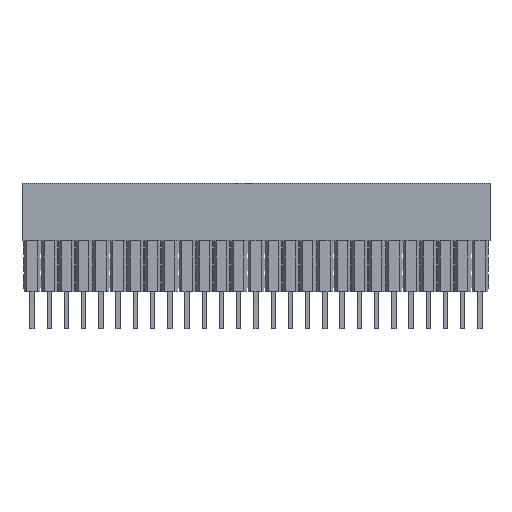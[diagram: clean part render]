
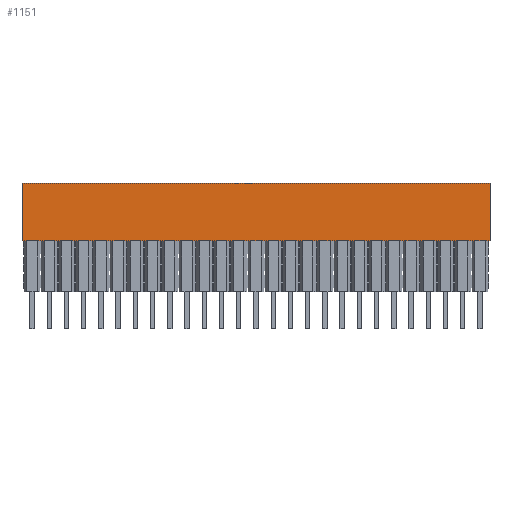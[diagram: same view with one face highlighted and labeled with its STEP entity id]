
A CAD part, top view. The second image highlights one B-rep face of the part: STEP entity #1151.
In plain terms, the highlighted planar face has unit normal (0, 0, 1).
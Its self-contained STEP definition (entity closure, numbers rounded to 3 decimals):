
#1151=ADVANCED_FACE('',(#3685),#2421,.T.);
#2421=PLANE('',#27948);
#3685=FACE_OUTER_BOUND('',#5115,.T.);
#5115=EDGE_LOOP('',(#11035,#11036,#11037,#11038));
#11035=ORIENTED_EDGE('',*,*,#18286,.T.);
#11036=ORIENTED_EDGE('',*,*,#18287,.F.);
#11037=ORIENTED_EDGE('',*,*,#18288,.T.);
#11038=ORIENTED_EDGE('',*,*,#18284,.T.);
#14883=VERTEX_POINT('',#39989);
#14884=VERTEX_POINT('',#39991);
#14885=VERTEX_POINT('',#39995);
#14886=VERTEX_POINT('',#39997);
#18284=EDGE_CURVE('',#14884,#14883,#22124,.T.);
#18286=EDGE_CURVE('',#14883,#14885,#22126,.T.);
#18287=EDGE_CURVE('',#14886,#14885,#22127,.T.);
#18288=EDGE_CURVE('',#14886,#14884,#22128,.T.);
#22124=LINE('',#39990,#25964);
#22126=LINE('',#39994,#25966);
#22127=LINE('',#39996,#25967);
#22128=LINE('',#39998,#25968);
#25964=VECTOR('',#32843,1.);
#25966=VECTOR('',#32847,1.);
#25967=VECTOR('',#32848,1.);
#25968=VECTOR('',#32849,1.);
#27948=AXIS2_PLACEMENT_3D('',#39999,#32850,#32851);
#32843=DIRECTION('',(1.,0.,0.));
#32847=DIRECTION('',(0.,1.,0.));
#32848=DIRECTION('',(1.,0.,0.));
#32849=DIRECTION('',(0.,-1.,0.));
#32850=DIRECTION('',(0.,0.,1.));
#32851=DIRECTION('',(-1.,0.,0.));
#39989=CARTESIAN_POINT('',(-4.68,0.,0.02));
#39990=CARTESIAN_POINT('',(-38.1,0.,0.02));
#39991=CARTESIAN_POINT('',(-73.66,0.,0.02));
#39994=CARTESIAN_POINT('',(-4.68,0.,0.02));
#39995=CARTESIAN_POINT('',(-4.68,8.5,0.02));
#39996=CARTESIAN_POINT('',(-38.1,8.5,0.02));
#39997=CARTESIAN_POINT('',(-73.66,8.5,0.02));
#39998=CARTESIAN_POINT('',(-73.66,0.,0.02));
#39999=CARTESIAN_POINT('',(-38.1,0.,0.02));
